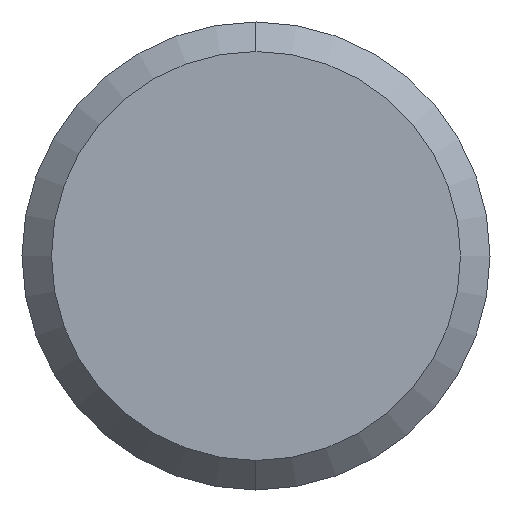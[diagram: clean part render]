
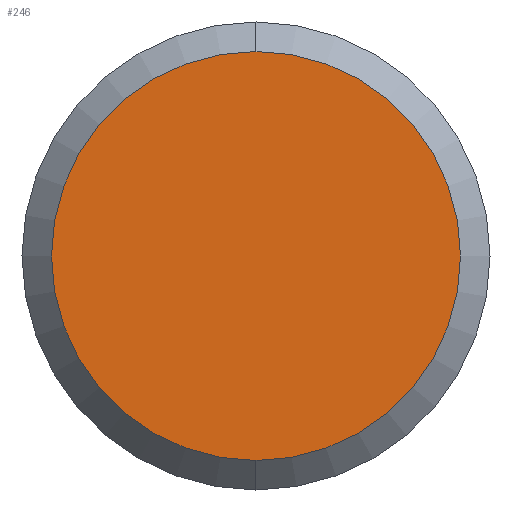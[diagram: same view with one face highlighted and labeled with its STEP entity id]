
A CAD part, left-side view. The second image highlights one B-rep face of the part: STEP entity #246.
In plain terms, the highlighted planar face has unit normal (-1, 0, 0).
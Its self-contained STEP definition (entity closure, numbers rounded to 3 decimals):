
#7 = CARTESIAN_POINT ( 'NONE',  ( -148.8, 0., 0. ) ) ;
#31 = DIRECTION ( 'NONE',  ( 0., 0., -1. ) ) ;
#45 = DIRECTION ( 'NONE',  ( 0., 0., -1. ) ) ;
#76 = PLANE ( 'NONE',  #159 ) ;
#99 = DIRECTION ( 'NONE',  ( 1., 0., 0. ) ) ;
#112 = CIRCLE ( 'NONE', #206, 5.55 ) ;
#136 = AXIS2_PLACEMENT_3D ( 'NONE', #453, #240, #31 ) ;
#144 = CIRCLE ( 'NONE', #136, 5.55 ) ;
#159 = AXIS2_PLACEMENT_3D ( 'NONE', #379, #99, #269 ) ;
#177 = EDGE_LOOP ( 'NONE', ( #268, #365 ) ) ;
#186 = VERTEX_POINT ( 'NONE', #271 ) ;
#206 = AXIS2_PLACEMENT_3D ( 'NONE', #7, #251, #45 ) ;
#214 = CARTESIAN_POINT ( 'NONE',  ( -148.8, 0., -5.55 ) ) ;
#240 = DIRECTION ( 'NONE',  ( -1., 0., 0. ) ) ;
#246 = ADVANCED_FACE ( 'NONE', ( #333 ), #76, .F. ) ;
#251 = DIRECTION ( 'NONE',  ( -1., 0., 0. ) ) ;
#268 = ORIENTED_EDGE ( 'NONE', *, *, #367, .T. ) ;
#269 = DIRECTION ( 'NONE',  ( 0., 0., -1. ) ) ;
#271 = CARTESIAN_POINT ( 'NONE',  ( -148.8, 0., 5.55 ) ) ;
#292 = EDGE_CURVE ( 'NONE', #186, #348, #144, .T. ) ;
#333 = FACE_OUTER_BOUND ( 'NONE', #177, .T. ) ;
#348 = VERTEX_POINT ( 'NONE', #214 ) ;
#365 = ORIENTED_EDGE ( 'NONE', *, *, #292, .T. ) ;
#367 = EDGE_CURVE ( 'NONE', #348, #186, #112, .T. ) ;
#379 = CARTESIAN_POINT ( 'NONE',  ( -148.8, 6.35, 0. ) ) ;
#453 = CARTESIAN_POINT ( 'NONE',  ( -148.8, 0., 0. ) ) ;
